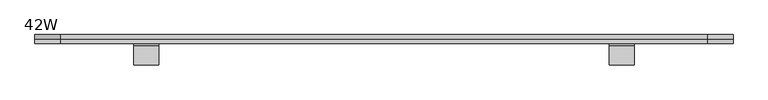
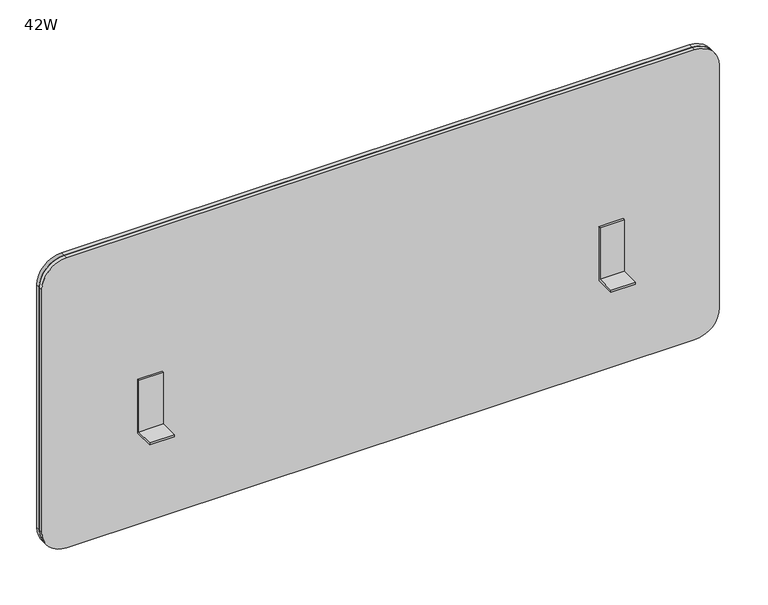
"""IFC4 building model written with IfcOpenShell, lengths in millimetres: furniture geometry, Steelcase Turnstone - Bivi - Screen - Straight : 42W."""

import ifcopenshell
import ifcopenshell.guid

model = None  # the IFC model being written
_history = None  # IfcOwnerHistory: only IFC2X3 demands one
_inside = {}  # id of a spatial element -> (the spatial element, [elements in it])
_under = {}  # id of a project, library or spatial element -> (it, [spatial elements below it])
_declared = {}  # id of a project -> (the project, [libraries it declares])
_typed = {}  # id of a type object -> (the type object, [elements of that type])
_made_of = {}  # id of a material, layer set ... -> (it, [elements and type objects made of it])


def new_model(schema):
    """Start an empty IFC model of exactly this schema.

    Asked for "IFC4X3", IfcOpenShell would pick the latest addendum, in which some entities
    have other attributes; the version numbers below select the first issue.
    IFC2X3 requires an IfcOwnerHistory on every rooted entity: one is made here for all.
    """
    global model, _history
    if schema == "IFC4X3":
        model = ifcopenshell.file(schema_version=(4, 3, 0, 0))
    else:
        model = ifcopenshell.file(schema=schema)
    _inside.clear()
    _under.clear()
    _declared.clear()
    _typed.clear()
    _made_of.clear()
    _history = None
    if model.schema == "IFC2X3":
        org = make("IfcOrganization", Name="unknown")
        user = make(
            "IfcPersonAndOrganization",
            ThePerson=make("IfcPerson", FamilyName="unknown"),
            TheOrganization=org,
        )
        app = make(
            "IfcApplication",
            ApplicationDeveloper=org,
            Version="unknown",
            ApplicationFullName="unknown",
            ApplicationIdentifier="unknown",
        )
        _history = make(
            "IfcOwnerHistory",
            OwningUser=user,
            OwningApplication=app,
            ChangeAction="ADDED",
            CreationDate=0,
        )
    return model


def make(cls, **values):
    """One entity of the class cls with the attributes given. An attribute that is None is left unset."""
    return model.create_entity(
        cls, **{name: value for name, value in values.items() if value is not None}
    )


def rooted(cls, **values):
    """An entity with a GlobalId (a new one), such as an element, a storey or a relation."""
    return make(cls, GlobalId=ifcopenshell.guid.new(), OwnerHistory=_history, **values)


def si_unit(unit_type, name, prefix=None):
    """IfcSIUnit, for example si_unit("LENGTHUNIT", "METRE", prefix="MILLI")."""
    return make("IfcSIUnit", UnitType=unit_type, Prefix=prefix, Name=name)


def assignment(units):
    """IfcUnitAssignment: the units of a project."""
    return None if units is None else make("IfcUnitAssignment", Units=units)


def point(xyz):
    """IfcCartesianPoint."""
    return None if xyz is None else make("IfcCartesianPoint", Coordinates=xyz)


def direction(xyz):
    """IfcDirection."""
    return None if xyz is None else make("IfcDirection", DirectionRatios=xyz)


def frame(location, z_axis=None, x_axis=None):
    """IfcAxis2Placement3D, a coordinate frame: its origin and axes. An axis left out is left unset."""
    return make(
        "IfcAxis2Placement3D",
        Location=point(location),
        Axis=direction(z_axis),
        RefDirection=direction(x_axis),
    )


def frame_2d(location, x_axis=None):
    """IfcAxis2Placement2D, a coordinate frame in the plane: its origin and x axis."""
    return make(
        "IfcAxis2Placement2D", Location=point(location), RefDirection=direction(x_axis)
    )


def origin():
    """The frame at (0, 0, 0) with its axes left unset."""
    return frame((0.0, 0.0, 0.0))


def place(relative_to, where):
    """IfcLocalPlacement: puts the frame where relative to a parent placement (None: the world)."""
    return make(
        "IfcLocalPlacement", PlacementRelTo=relative_to, RelativePlacement=where
    )


def context(
    kind, dimensions, precision=None, world=None, true_north=None, identifier=None
):
    """IfcGeometricRepresentationContext, for example the 3D "Model" context."""
    return make(
        "IfcGeometricRepresentationContext",
        ContextIdentifier=identifier,
        ContextType=kind,
        CoordinateSpaceDimension=dimensions,
        Precision=precision,
        WorldCoordinateSystem=world,
        TrueNorth=true_north,
    )


def project(units=None, contexts=None):
    """IfcProject with its units and contexts."""
    return rooted(
        "IfcProject",
        Name="project",
        RepresentationContexts=contexts,
        UnitsInContext=assignment(units),
    )


def spatial(cls, under=None, at=None, **own):
    """A site, building, storey or space (cls), placed at a placement, below another one or the project."""
    s = rooted(cls, ObjectPlacement=at, **own)
    if under is not None:
        _under.setdefault(under.id(), (under, []))[1].append(s)
    return s


def polyline(points):
    """IfcPolyline through the points."""
    return make("IfcPolyline", Points=[point(p) for p in points])


def circle_curve(where, radius):
    """IfcCircle in the frame where."""
    return make("IfcCircle", Position=where, Radius=radius)


def trimmed(basis, trim1, trim2, sense, master):
    """IfcTrimmedCurve: the piece of a basis curve between two trims."""
    return make(
        "IfcTrimmedCurve",
        BasisCurve=basis,
        Trim1=trim1,
        Trim2=trim2,
        SenseAgreement=sense,
        MasterRepresentation=master,
    )


def segment(curve, same_sense, transition):
    """IfcCompositeCurveSegment."""
    return make(
        "IfcCompositeCurveSegment",
        Transition=transition,
        SameSense=same_sense,
        ParentCurve=curve,
    )


def composite_curve(segments, self_intersect=None):
    """IfcCompositeCurve: segments joined end to end."""
    return make("IfcCompositeCurve", Segments=segments, SelfIntersect=self_intersect)


def outline(outer, holes=None, kind="AREA"):
    """IfcArbitraryClosedProfileDef: a profile drawn as a closed curve; with holes, ...WithVoids."""
    if holes is None:
        return make("IfcArbitraryClosedProfileDef", ProfileType=kind, OuterCurve=outer)
    return make(
        "IfcArbitraryProfileDefWithVoids",
        ProfileType=kind,
        OuterCurve=outer,
        InnerCurves=holes,
    )


def extrude(swept, where, along, depth):
    """IfcExtrudedAreaSolid: the profile swept, set in the frame where, extruded along a direction by depth."""
    return make(
        "IfcExtrudedAreaSolid",
        SweptArea=swept,
        Position=where,
        ExtrudedDirection=direction(along),
        Depth=depth,
    )


def shape(context_of_items, identifier, shape_type, items):
    """IfcShapeRepresentation: the items that make up one representation, for example the "Body"."""
    return make(
        "IfcShapeRepresentation",
        ContextOfItems=context_of_items,
        RepresentationIdentifier=identifier,
        RepresentationType=shape_type,
        Items=items,
    )


def source(mapping_origin, context_of_items, identifier, shape_type, items):
    """IfcRepresentationMap: a shape defined once, which mapped items show again and again."""
    return make(
        "IfcRepresentationMap",
        MappingOrigin=mapping_origin,
        MappedRepresentation=shape(context_of_items, identifier, shape_type, items),
    )


def transform(
    local_origin,
    x_axis=None,
    y_axis=None,
    z_axis=None,
    scale=None,
    scale2=None,
    scale3=None,
    uniform=True,
):
    """IfcCartesianTransformationOperator3D, or its non-uniform kind. x_axis, y_axis, z_axis: its Axis1, 2, 3."""
    if uniform:
        return make(
            "IfcCartesianTransformationOperator3D",
            Axis1=direction(x_axis),
            Axis2=direction(y_axis),
            LocalOrigin=point(local_origin),
            Scale=scale,
            Axis3=direction(z_axis),
        )
    return make(
        "IfcCartesianTransformationOperator3DnonUniform",
        Axis1=direction(x_axis),
        Axis2=direction(y_axis),
        LocalOrigin=point(local_origin),
        Scale=scale,
        Axis3=direction(z_axis),
        Scale2=scale2,
        Scale3=scale3,
    )


def mapped(mapping_source, mapping_target):
    """IfcMappedItem: shows the shape of a source again, moved by a transform."""
    return make(
        "IfcMappedItem", MappingSource=mapping_source, MappingTarget=mapping_target
    )


def made_of(thing, what):
    """Note that an element or type object is made of a material, layer set ...; save() writes the relation."""
    if what is not None:
        _made_of.setdefault(what.id(), (what, []))[1].append(thing)
    return thing


def element(
    cls,
    number,
    at=None,
    inside=None,
    cuts=None,
    type_object=None,
    material=None,
    context=None,
    identifier="Body",
    shape_type=None,
    held_by="IfcProductDefinitionShape",
    body=None,
    shapes=None,
    **own,
):
    """One element of the class cls, such as IfcWall. Its Tag is "e" and its number.

    at: its placement. inside: the storey or other place that contains it. cuts: it is an
    opening in that element (IfcRelVoidsElement). A single representation is given by context,
    identifier, shape_type and body (its items); several are given by shapes. held_by: the class
    of the entity that holds the representations. save() writes the other relations.
    """
    e = rooted(cls, Tag="e%d" % number, ObjectPlacement=at, **own)
    if body is not None:
        shapes = [shape(context, identifier, shape_type, body)]
    if shapes is not None:
        e.Representation = make(held_by, Representations=shapes)
    if inside is not None:
        _inside.setdefault(inside.id(), (inside, []))[1].append(e)
    if cuts is not None:
        rooted(
            "IfcRelVoidsElement", RelatingBuildingElement=cuts, RelatedOpeningElement=e
        )
    if type_object is not None:
        _typed.setdefault(type_object.id(), (type_object, []))[1].append(e)
    return made_of(e, material)


def aggregate(whole, parts):
    """IfcRelAggregates: a whole, such as a stair, and the parts it consists of."""
    return rooted("IfcRelAggregates", RelatingObject=whole, RelatedObjects=parts)


def save(model, path):
    """Write the relations noted so far, then the file.

    IfcRelAggregates (storeys below a building ...), IfcRelContainedInSpatialStructure (elements
    in a storey), IfcRelDefinesByType, IfcRelAssociatesMaterial and IfcRelDeclares: one each for
    every whole, place, type object, material and project.
    """
    for whole, parts in _under.values():
        aggregate(whole, parts)
    for where, things in _inside.values():
        rooted(
            "IfcRelContainedInSpatialStructure",
            RelatedElements=things,
            RelatingStructure=where,
        )
    for kind, things in _typed.values():
        rooted("IfcRelDefinesByType", RelatedObjects=things, RelatingType=kind)
    for what, things in _made_of.values():
        rooted("IfcRelAssociatesMaterial", RelatedObjects=things, RelatingMaterial=what)
    for by, libraries in _declared.values():
        rooted("IfcRelDeclares", RelatingContext=by, RelatedDefinitions=libraries)
    model.write(path)


def furniture_42w_2b0d6055(model_context):
    return source(origin(), model_context, "Body", "SweptSolid", [
        extrude(outline(polyline([(-100.6456009, 700.9734272), (-100.6456009, 787.0495535), (-97.6872108, 787.0495535), (-97.6872108, 697.3921394), (-130.205922, 697.3921394), (-130.205922, 700.9734272), (-100.6456009, 700.9734272)])), frame((877.2617872, 0.0, 0.0), z_axis=(1.0, 0.0, 0.0), x_axis=(0.0, 1.0, 0.0)), (0.0, 0.0, 1.0), 38.2069702),
        extrude(outline(polyline([(-100.6456009, 700.9734272), (-100.6456009, 787.0495535), (-97.6872108, 787.0495535), (-97.6872108, 697.3921394), (-130.205922, 697.3921394), (-130.205922, 700.9734272), (-100.6456009, 700.9734272)])), frame((151.3312426, 0.0, 0.0), z_axis=(1.0, 0.0, 0.0), x_axis=(0.0, 1.0, 0.0)), (0.0, 0.0, 1.0), 38.2069702),
        extrude(outline(composite_curve([segment(polyline([(1028.3412889, 1027.43), (1028.3412889, 39.4397467)]), True, "CONTINUOUS"), segment(trimmed(circle_curve(frame_2d((988.9015421, 39.4397467)), 39.4397467), [point((1028.3412889, 39.4397467))], [point((988.9015421, 0.0))], False, "CARTESIAN"), True, "CONTINUOUS"), segment(polyline([(988.9015421, 0.0), (585.1278182, 0.0)]), True, "CONTINUOUS"), segment(trimmed(circle_curve(frame_2d((585.1278182, 39.37)), 39.37), [point((585.1278182, 0.0))], [point((545.7578182, 39.37))], False, "CARTESIAN"), True, "CONTINUOUS"), segment(polyline([(545.7578182, 39.37), (545.7578182, 1027.43)]), True, "CONTINUOUS"), segment(trimmed(circle_curve(frame_2d((585.1278182, 1027.43)), 39.37), [point((545.7578182, 1027.43))], [point((585.1278182, 1066.8))], False, "CARTESIAN"), True, "CONTINUOUS"), segment(polyline([(585.1278182, 1066.8), (988.9712889, 1066.8)]), True, "CONTINUOUS"), segment(trimmed(circle_curve(frame_2d((988.9712889, 1027.43)), 39.37), [point((988.9712889, 1066.8))], [point((1028.3412889, 1027.43))], False, "CARTESIAN"), True, "CONTINUOUS")], self_intersect=False)), frame((0.0, -90.878476, 0.0), z_axis=(0.0, 1.0, 0.0), x_axis=(0.0, 0.0, 1.0)), (0.0, 0.0, 1.0), 6.8087348),
        extrude(outline(composite_curve([segment(polyline([(1028.3412889, 1027.43), (1028.3412889, 39.4397467)]), True, "CONTINUOUS"), segment(trimmed(circle_curve(frame_2d((988.9015421, 39.4397467)), 39.4397467), [point((1028.3412889, 39.4397467))], [point((988.9015421, 0.0))], False, "CARTESIAN"), True, "CONTINUOUS"), segment(polyline([(988.9015421, 0.0), (585.1278182, 0.0)]), True, "CONTINUOUS"), segment(trimmed(circle_curve(frame_2d((585.1278182, 39.37)), 39.37), [point((585.1278182, 0.0))], [point((545.7578182, 39.37))], False, "CARTESIAN"), True, "CONTINUOUS"), segment(polyline([(545.7578182, 39.37), (545.7578182, 1027.43)]), True, "CONTINUOUS"), segment(trimmed(circle_curve(frame_2d((585.1278182, 1027.43)), 39.37), [point((545.7578182, 1027.43))], [point((585.1278182, 1066.8))], False, "CARTESIAN"), True, "CONTINUOUS"), segment(polyline([(585.1278182, 1066.8), (988.9712889, 1066.8)]), True, "CONTINUOUS"), segment(trimmed(circle_curve(frame_2d((988.9712889, 1027.43)), 39.37), [point((988.9712889, 1066.8))], [point((1028.3412889, 1027.43))], False, "CARTESIAN"), True, "CONTINUOUS")], self_intersect=False)), frame((0.0, -97.6872108, 0.0), z_axis=(0.0, 1.0, 0.0), x_axis=(0.0, 0.0, 1.0)), (0.0, 0.0, 1.0), 6.8087348),
    ])


if __name__ == "__main__":
    model = new_model("IFC4")
    model_context = context("Model", 3, world=origin())
    ifc_project = project(units=[si_unit("LENGTHUNIT", "METRE", prefix="MILLI")], contexts=[model_context])
    site = spatial("IfcSite", under=ifc_project)
    building = spatial("IfcBuilding", under=site)
    placement = place(None, origin())
    furniture_42w_shape = furniture_42w_2b0d6055(model_context)
    element("IfcFurniture", 1, ObjectType="Steelcase Turnstone - Bivi - Screen - Straight : 42W", at=placement, inside=building, context=model_context, shape_type="MappedRepresentation", body=[
        mapped(furniture_42w_shape, transform((0.0, 0.0, 0.0), x_axis=(1.0, 0.0, 0.0), y_axis=(0.0, 1.0, 0.0), z_axis=(0.0, 0.0, 1.0))),
    ])
    save(model, "model.ifc")
